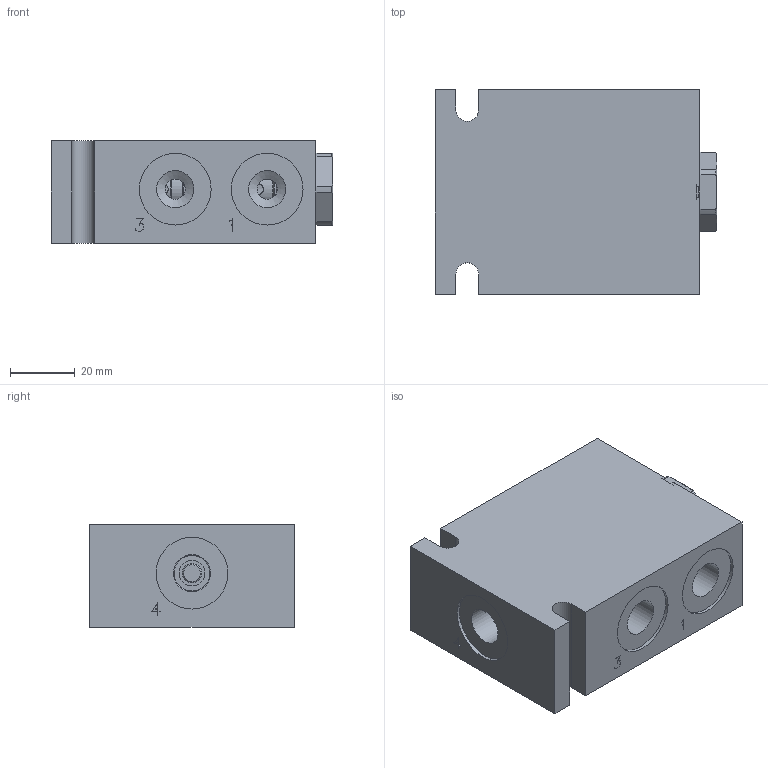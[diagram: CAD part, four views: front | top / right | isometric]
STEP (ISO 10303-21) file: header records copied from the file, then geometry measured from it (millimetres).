
FILE_DESCRIPTION( ( 'Unknown' ), '1' );
FILE_NAME( 'G:/Graphic Design/Graphic Design 2/Data Sheets/MANUAL_MECH OPERATED VALVES/4_STEP/Double Pilot Operated Check Valves/D-PQCDP00-A4.stp', 'Unknown', ( 'Unknown' ), ( 'Unknown' ), 'PSStep 16.0.42', 'Unknown', ' ' );
FILE_SCHEMA( ( 'AUTOMOTIVE_DESIGN { 1 0 10303 214 1 1 1 1 }' ) );
Length unit declared in the file: millimetre
Products named in the file (8): PQCDP00; Part152; Part154; Part156; Part158; Part160; Assem1; B-DPQA4
Assembly tree (7 placements, depth 3):
  Assem1
    B-DPQA4
    PQCDP00
      Part152
      Part154
      Part156
      Part158
      Part160
Bounding box: 87.38 x 63.5 x 31.75 mm (x, y, z)
Surface area: 32435.4 mm2 (no closed solid volume)
Topology: 0 solids, 263 shells, 263 faces, 1168 edges, 1058 vertices
Faces by surface type: plane 136, cylinder 76, cone 43, torus 8
Full cylindrical faces by diameter (mm): 0.2 x4, 2.769 x6, 3.175 x6, 3.454 x6, 5.969 x1, 6.3 x3, 7.925 x2, 8.738 x1, 9.449 x1, 9.881 x1, 10.16 x1, 11 x1, 11.455 x2, 11.5 x8, 12.294 x1, 12.421 x1, 12.624 x2, 12.751 x1, 13.056 x1, 13.081 x2, 14.021 x1, 14.199 x2, 14.326 x1, 15.799 x2, 15.824 x1, 15.926 x1, 16.751 x1, 17.33 x2, 22.22 x4, 22.225 x1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
Entity records: 16482 total; most frequent: CARTESIAN_POINT 6620, DIRECTION 1394, VERTEX_POINT 1020, ORIENTED_EDGE 1016, EDGE_CURVE 1016, AXIS2_PLACEMENT_3D 568, FACE_BOUND 429, EDGE_LOOP 425
